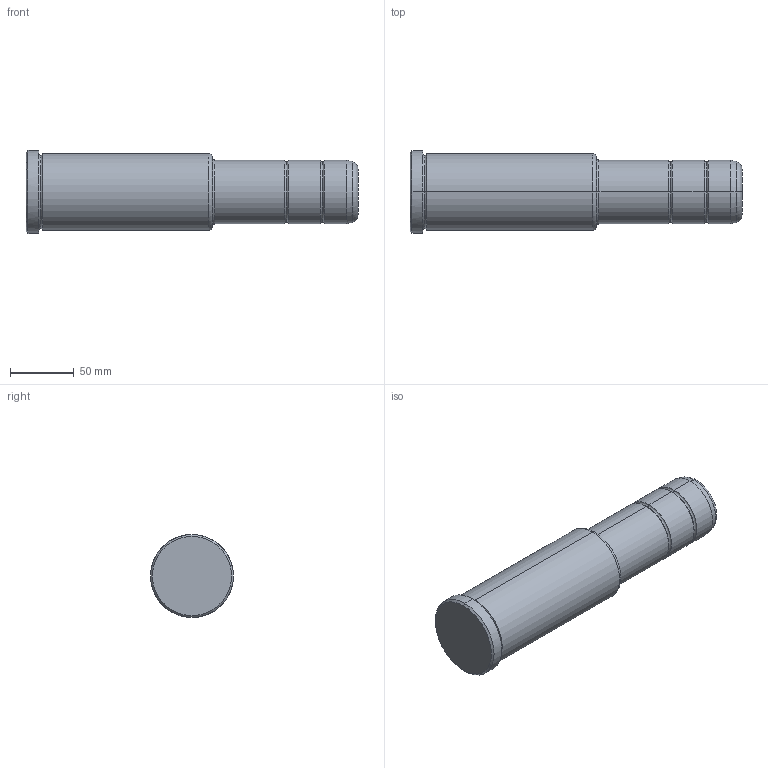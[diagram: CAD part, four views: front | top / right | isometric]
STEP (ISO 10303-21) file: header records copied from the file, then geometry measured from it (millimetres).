
FILE_DESCRIPTION(('CATIA V5 STEP Exchange'),'2;1');
FILE_NAME('C:\Users\Utente\Desktop\IO LAVORO\3D X SITO CF\X SITO\PLASTICA\351\351-50X146X260.stp','2021-11-03T19:26:46+00:00',('none'),('none'),'CATIA Version 5 Release 20 GA (IN-10)','CATIA V5 STEP AP203','none');
FILE_SCHEMA(('CONFIG_CONTROL_DESIGN'));
Length unit declared in the file: millimetre
Products named in the file (1): 351-50X146X260
Bounding box: 260 x 65 x 65 mm (x, y, z)
Volume: 637166 mm3; surface area: 51851.3 mm2
Topology: 1 solids, 1 shells, 35 faces, 98 edges, 66 vertices
Faces by surface type: torus 18, cylinder 10, cone 4, plane 3
Entity records: 1198 total; most frequent: CARTESIAN_POINT 256, ORIENTED_EDGE 196, DIRECTION 164, AXIS2_PLACEMENT_3D 116, EDGE_CURVE 98, CIRCLE 80, VERTEX_POINT 66, EDGE_LOOP 36
